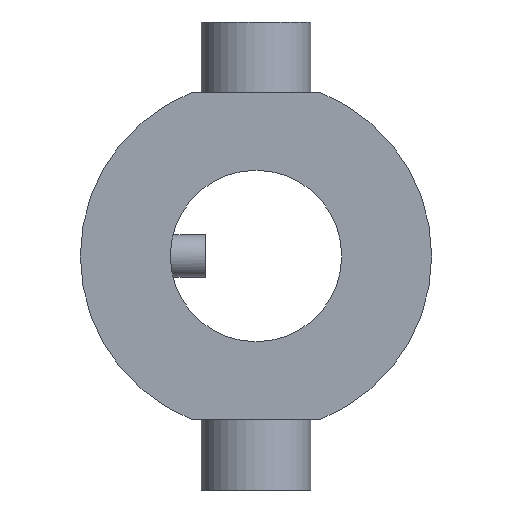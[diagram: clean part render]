
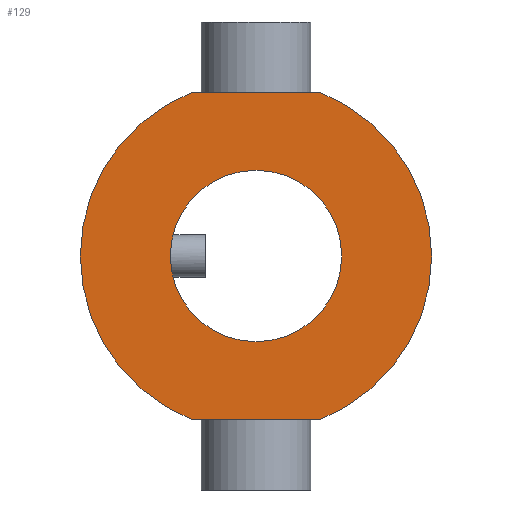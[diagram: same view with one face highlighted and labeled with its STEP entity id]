
A CAD part, left-side view. The second image highlights one B-rep face of the part: STEP entity #129.
In plain terms, the highlighted planar face has unit normal (-1, 0, 0).
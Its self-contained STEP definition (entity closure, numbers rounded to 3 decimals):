
#129=ADVANCED_FACE('',(#172,#174),#176,.F.);
#172=FACE_BOUND('',#173,.T.);
#173=EDGE_LOOP('',(#295,#296,#297,#298));
#174=FACE_BOUND('',#175,.T.);
#175=EDGE_LOOP('',(#299));
#176=PLANE('',#177);
#177=AXIS2_PLACEMENT_3D('',#178,#179,#180);
#178=CARTESIAN_POINT('',(0.,0.,0.));
#179=DIRECTION('',(1.,0.,0.));
#180=DIRECTION('',(0.,0.,-1.));
#295=ORIENTED_EDGE('',*,*,#349,.T.);
#296=ORIENTED_EDGE('',*,*,#350,.F.);
#297=ORIENTED_EDGE('',*,*,#339,.T.);
#298=ORIENTED_EDGE('',*,*,#351,.F.);
#299=ORIENTED_EDGE('',*,*,#352,.T.);
#339=EDGE_CURVE('',#369,#370,#371,.T.);
#349=EDGE_CURVE('',#387,#388,#389,.T.);
#350=EDGE_CURVE('',#369,#388,#390,.T.);
#351=EDGE_CURVE('',#387,#370,#391,.T.);
#352=EDGE_CURVE('',#392,#392,#393,.T.);
#369=VERTEX_POINT('',#421);
#370=VERTEX_POINT('',#422);
#371=LINE('',#423,#424);
#387=VERTEX_POINT('',#461);
#388=VERTEX_POINT('',#462);
#389=LINE('',#463,#464);
#390=CIRCLE('',#466,12.5);
#391=CIRCLE('',#470,12.5);
#392=VERTEX_POINT('',#474);
#393=CIRCLE('',#475,6.1);
#421=CARTESIAN_POINT('',(0.,4.531,-11.65));
#422=CARTESIAN_POINT('',(0.,-4.531,-11.65));
#423=CARTESIAN_POINT('',(0.,4.531,-11.65));
#424=VECTOR('',#425,1.);
#425=DIRECTION('',(0.,-1.,0.));
#461=CARTESIAN_POINT('',(0.,-4.531,11.65));
#462=CARTESIAN_POINT('',(0.,4.531,11.65));
#463=CARTESIAN_POINT('',(0.,-4.531,11.65));
#464=VECTOR('',#465,1.);
#465=DIRECTION('',(0.,1.,0.));
#466=AXIS2_PLACEMENT_3D('',#467,#468,#469);
#467=CARTESIAN_POINT('',(0.,0.,0.));
#468=DIRECTION('',(1.,0.,0.));
#469=DIRECTION('',(0.,0.362,-0.932));
#470=AXIS2_PLACEMENT_3D('',#471,#472,#473);
#471=CARTESIAN_POINT('',(0.,0.,0.));
#472=DIRECTION('',(1.,0.,0.));
#473=DIRECTION('',(0.,-0.362,0.932));
#474=CARTESIAN_POINT('',(0.,0.,-6.1));
#475=AXIS2_PLACEMENT_3D('',#476,#477,#478);
#476=CARTESIAN_POINT('',(0.,0.,0.));
#477=DIRECTION('',(1.,0.,0.));
#478=DIRECTION('',(0.,0.,-1.));
